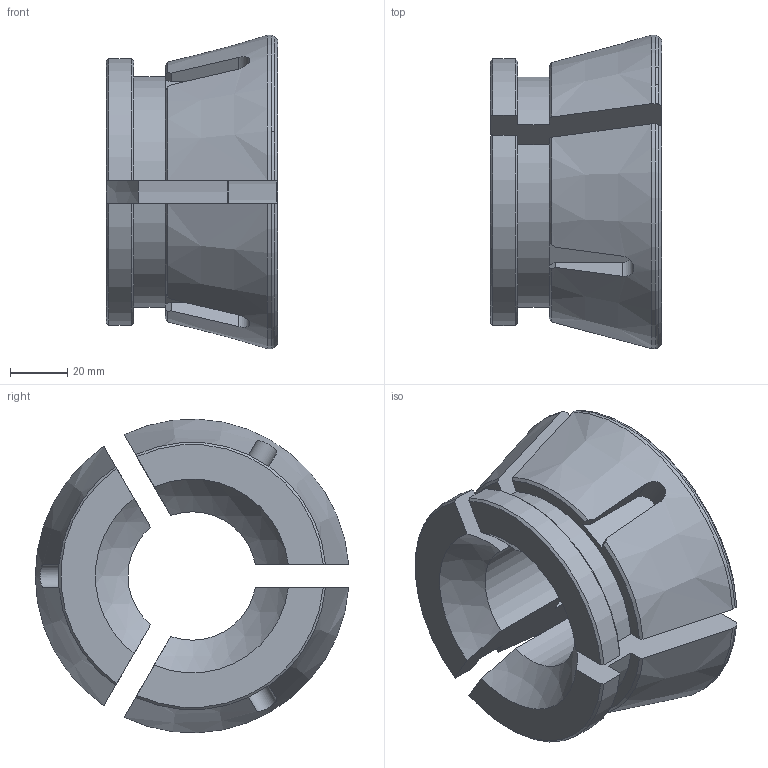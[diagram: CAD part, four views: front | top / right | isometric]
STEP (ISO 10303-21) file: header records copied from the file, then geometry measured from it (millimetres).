
FILE_DESCRIPTION(/* description */ (''),/* implementation_level */ '2;1');
FILE_NAME(/* name */ 'JYEK-110N.stp',/* time_stamp */ '2022-11-14T10:48:25+08:00',/* author */ (''),/* organization */ (''),/* preprocessor_version */ 'ST-DEVELOPER v16.7',/* originating_system */ 'SIEMENS PLM Software NX 12.0',/* authorisation */ '');
FILE_SCHEMA (('AUTOMOTIVE_DESIGN { 1 0 10303 214 3 1 1 1 }'));
Length unit declared in the file: millimetre
Products named in the file (1): _model1
Bounding box: 60 x 109.85 x 109.92 mm (x, y, z)
Volume: 259729.3 mm3; surface area: 50311.4 mm2
Topology: 3 solids, 3 shells, 108 faces, 288 edges, 192 vertices
Faces by surface type: plane 42, cylinder 24, cone 24, torus 15, sphere 3
Full cylindrical faces by diameter (mm): 7.618 x6
Entity records: 4016 total; most frequent: CARTESIAN_POINT 1441, ORIENTED_EDGE 552, DIRECTION 491, EDGE_CURVE 276, AXIS2_PLACEMENT_3D 199, VERTEX_POINT 186, EDGE_LOOP 120, ADVANCED_FACE 108
